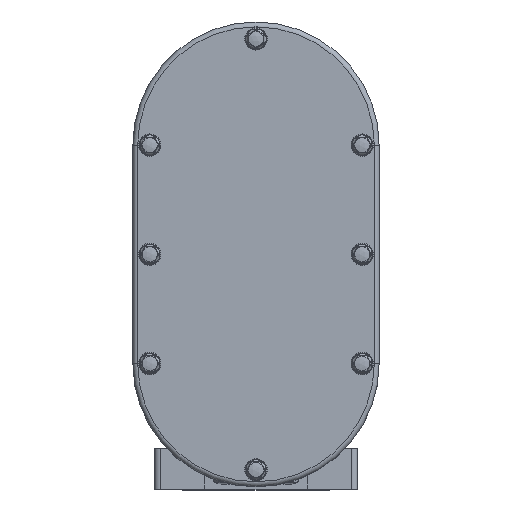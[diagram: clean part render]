
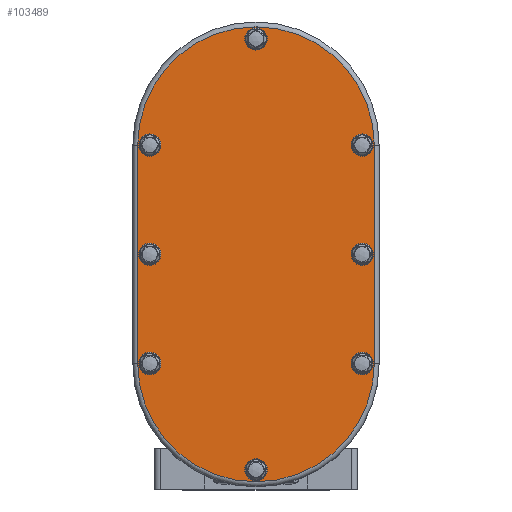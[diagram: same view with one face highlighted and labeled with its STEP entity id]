
A CAD part, top view. The second image highlights one B-rep face of the part: STEP entity #103489.
In plain terms, the highlighted planar face has unit normal (0, 0, 1).
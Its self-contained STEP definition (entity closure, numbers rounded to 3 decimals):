
#447 = DIRECTION ( 'NONE',  ( 0., -1., 0. ) ) ;
#781 = CARTESIAN_POINT ( 'NONE',  ( 2.377, 4.388, 3.975 ) ) ;
#1753 = CARTESIAN_POINT ( 'NONE',  ( 0., -2.135, 3.975 ) ) ;
#1860 = EDGE_CURVE ( 'NONE', #42125, #41587, #118177, .T. ) ;
#2296 = ORIENTED_EDGE ( 'NONE', *, *, #91720, .T. ) ;
#2774 = DIRECTION ( 'NONE',  ( 0., 0., 1. ) ) ;
#3060 = AXIS2_PLACEMENT_3D ( 'NONE', #72686, #109612, #81325 ) ;
#3168 = CIRCLE ( 'NONE', #72005, 0.222 ) ;
#4255 = DIRECTION ( 'NONE',  ( -1., 0., 0. ) ) ;
#8226 = DIRECTION ( 'NONE',  ( 0., 0., 1. ) ) ;
#9415 = DIRECTION ( 'NONE',  ( 0., 0., 1. ) ) ;
#10109 = EDGE_CURVE ( 'NONE', #96002, #58359, #84744, .T. ) ;
#10943 = ORIENTED_EDGE ( 'NONE', *, *, #37562, .T. ) ;
#13322 = VERTEX_POINT ( 'NONE', #116736 ) ;
#13512 = CARTESIAN_POINT ( 'NONE',  ( 2.377, 0., 3.975 ) ) ;
#14351 = EDGE_CURVE ( 'NONE', #94409, #94409, #109469, .T. ) ;
#15089 = CARTESIAN_POINT ( 'NONE',  ( -2.135, 0., 3.975 ) ) ;
#18092 = DIRECTION ( 'NONE',  ( 1., 0., 0. ) ) ;
#18609 = VERTEX_POINT ( 'NONE', #76369 ) ;
#18934 = ORIENTED_EDGE ( 'NONE', *, *, #99028, .F. ) ;
#20174 = VECTOR ( 'NONE', #447, 39.37 ) ;
#22964 = EDGE_CURVE ( 'NONE', #54245, #54245, #45425, .T. ) ;
#24197 = ORIENTED_EDGE ( 'NONE', *, *, #108958, .F. ) ;
#25787 = EDGE_LOOP ( 'NONE', ( #35719 ) ) ;
#26766 = EDGE_LOOP ( 'NONE', ( #10943, #63566, #2296, #56876 ) ) ;
#27304 = DIRECTION ( 'NONE',  ( -1., 0., 0. ) ) ;
#28633 = CIRCLE ( 'NONE', #3060, 0.222 ) ;
#29193 = ORIENTED_EDGE ( 'NONE', *, *, #22964, .F. ) ;
#29276 = CARTESIAN_POINT ( 'NONE',  ( 0., 4.388, 3.975 ) ) ;
#29877 = FACE_BOUND ( 'NONE', #64326, .T. ) ;
#30056 = DIRECTION ( 'NONE',  ( -1., 0., 0. ) ) ;
#32904 = CARTESIAN_POINT ( 'NONE',  ( -2.377, 4.388, 3.975 ) ) ;
#34121 = DIRECTION ( 'NONE',  ( -1., 0., 0. ) ) ;
#34473 = EDGE_LOOP ( 'NONE', ( #29193 ) ) ;
#35719 = ORIENTED_EDGE ( 'NONE', *, *, #65471, .F. ) ;
#36554 = CARTESIAN_POINT ( 'NONE',  ( 2.135, 0., 3.975 ) ) ;
#37096 = VERTEX_POINT ( 'NONE', #104147 ) ;
#37239 = VERTEX_POINT ( 'NONE', #112316 ) ;
#37316 = FACE_BOUND ( 'NONE', #97209, .T. ) ;
#37562 = EDGE_CURVE ( 'NONE', #41587, #96002, #95743, .T. ) ;
#37924 = FACE_BOUND ( 'NONE', #34473, .T. ) ;
#39302 = DIRECTION ( 'NONE',  ( 0., 0., 1. ) ) ;
#39748 = CARTESIAN_POINT ( 'NONE',  ( 1.913, 0., 3.975 ) ) ;
#41587 = VERTEX_POINT ( 'NONE', #781 ) ;
#42076 = DIRECTION ( 'NONE',  ( 0., 0., 1. ) ) ;
#42125 = VERTEX_POINT ( 'NONE', #13512 ) ;
#43383 = DIRECTION ( 'NONE',  ( 0., 0., 1. ) ) ;
#44544 = CIRCLE ( 'NONE', #91671, 0.222 ) ;
#45425 = CIRCLE ( 'NONE', #114151, 0.222 ) ;
#48085 = EDGE_CURVE ( 'NONE', #13322, #13322, #62501, .T. ) ;
#48190 = VERTEX_POINT ( 'NONE', #113382 ) ;
#48340 = CARTESIAN_POINT ( 'NONE',  ( 0., 4.388, 3.975 ) ) ;
#49455 = CIRCLE ( 'NONE', #53434, 0.222 ) ;
#52537 = DIRECTION ( 'NONE',  ( -1., 0., 0. ) ) ;
#53434 = AXIS2_PLACEMENT_3D ( 'NONE', #15089, #77653, #94900 ) ;
#54245 = VERTEX_POINT ( 'NONE', #73279 ) ;
#54684 = EDGE_LOOP ( 'NONE', ( #114385 ) ) ;
#55832 = FACE_BOUND ( 'NONE', #96332, .T. ) ;
#56413 = AXIS2_PLACEMENT_3D ( 'NONE', #1753, #39302, #30056 ) ;
#56876 = ORIENTED_EDGE ( 'NONE', *, *, #1860, .T. ) ;
#57015 = FACE_OUTER_BOUND ( 'NONE', #26766, .T. ) ;
#58211 = FACE_BOUND ( 'NONE', #91803, .T. ) ;
#58359 = VERTEX_POINT ( 'NONE', #110714 ) ;
#59185 = ORIENTED_EDGE ( 'NONE', *, *, #14351, .F. ) ;
#59966 = DIRECTION ( 'NONE',  ( 0., 0., 1. ) ) ;
#61264 = ORIENTED_EDGE ( 'NONE', *, *, #85625, .F. ) ;
#62501 = CIRCLE ( 'NONE', #105671, 0.222 ) ;
#63566 = ORIENTED_EDGE ( 'NONE', *, *, #10109, .T. ) ;
#64326 = EDGE_LOOP ( 'NONE', ( #24197 ) ) ;
#64412 = DIRECTION ( 'NONE',  ( 0., 1., 0. ) ) ;
#65471 = EDGE_CURVE ( 'NONE', #37239, #37239, #49455, .T. ) ;
#66231 = FACE_BOUND ( 'NONE', #54684, .T. ) ;
#67446 = DIRECTION ( 'NONE',  ( -1., 0., 0. ) ) ;
#69248 = AXIS2_PLACEMENT_3D ( 'NONE', #29276, #121059, #67446 ) ;
#71369 = CARTESIAN_POINT ( 'NONE',  ( 2.377, 4.388, 3.975 ) ) ;
#72005 = AXIS2_PLACEMENT_3D ( 'NONE', #102974, #8226, #18092 ) ;
#72686 = CARTESIAN_POINT ( 'NONE',  ( 0., 6.523, 3.975 ) ) ;
#73279 = CARTESIAN_POINT ( 'NONE',  ( 1.913, 2.194, 3.975 ) ) ;
#76369 = CARTESIAN_POINT ( 'NONE',  ( 0., 6.745, 3.975 ) ) ;
#77653 = DIRECTION ( 'NONE',  ( 0., 0., 1. ) ) ;
#79961 = CARTESIAN_POINT ( 'NONE',  ( -2.135, 4.388, 3.975 ) ) ;
#81325 = DIRECTION ( 'NONE',  ( 0., 1., 0. ) ) ;
#84744 = LINE ( 'NONE', #113668, #20174 ) ;
#85283 = DIRECTION ( 'NONE',  ( -1., 0., 0. ) ) ;
#85621 = EDGE_CURVE ( 'NONE', #48190, #48190, #3168, .T. ) ;
#85625 = EDGE_CURVE ( 'NONE', #37096, #37096, #44544, .T. ) ;
#86536 = AXIS2_PLACEMENT_3D ( 'NONE', #36554, #43383, #34121 ) ;
#87090 = CARTESIAN_POINT ( 'NONE',  ( 0., 0., 3.975 ) ) ;
#91671 = AXIS2_PLACEMENT_3D ( 'NONE', #112814, #9415, #27304 ) ;
#91720 = EDGE_CURVE ( 'NONE', #58359, #42125, #110121, .T. ) ;
#91803 = EDGE_LOOP ( 'NONE', ( #61264 ) ) ;
#94409 = VERTEX_POINT ( 'NONE', #104878 ) ;
#94509 = PLANE ( 'NONE',  #69248 ) ;
#94900 = DIRECTION ( 'NONE',  ( 1., 0., 0. ) ) ;
#95743 = CIRCLE ( 'NONE', #111525, 2.377 ) ;
#96002 = VERTEX_POINT ( 'NONE', #32904 ) ;
#96332 = EDGE_LOOP ( 'NONE', ( #59185 ) ) ;
#96333 = VERTEX_POINT ( 'NONE', #39748 ) ;
#97209 = EDGE_LOOP ( 'NONE', ( #18934 ) ) ;
#98310 = AXIS2_PLACEMENT_3D ( 'NONE', #87090, #2774, #85283 ) ;
#99028 = EDGE_CURVE ( 'NONE', #96333, #96333, #104217, .T. ) ;
#102974 = CARTESIAN_POINT ( 'NONE',  ( -2.135, 2.194, 3.975 ) ) ;
#103489 = ADVANCED_FACE ( 'NONE', ( #37924, #112397, #29877, #66231, #37316, #103759, #55832, #58211, #57015 ), #94509, .F. ) ;
#103759 = FACE_BOUND ( 'NONE', #25787, .T. ) ;
#104147 = CARTESIAN_POINT ( 'NONE',  ( 1.913, 4.388, 3.975 ) ) ;
#104217 = CIRCLE ( 'NONE', #86536, 0.222 ) ;
#104878 = CARTESIAN_POINT ( 'NONE',  ( -0.222, -2.135, 3.975 ) ) ;
#105671 = AXIS2_PLACEMENT_3D ( 'NONE', #79961, #115050, #4255 ) ;
#106653 = CARTESIAN_POINT ( 'NONE',  ( 2.135, 2.194, 3.975 ) ) ;
#106778 = ORIENTED_EDGE ( 'NONE', *, *, #48085, .F. ) ;
#108958 = EDGE_CURVE ( 'NONE', #18609, #18609, #28633, .T. ) ;
#109469 = CIRCLE ( 'NONE', #56413, 0.222 ) ;
#109612 = DIRECTION ( 'NONE',  ( 0., 0., 1. ) ) ;
#110121 = CIRCLE ( 'NONE', #98310, 2.377 ) ;
#110492 = EDGE_LOOP ( 'NONE', ( #106778 ) ) ;
#110714 = CARTESIAN_POINT ( 'NONE',  ( -2.377, 0., 3.975 ) ) ;
#111525 = AXIS2_PLACEMENT_3D ( 'NONE', #48340, #59966, #114757 ) ;
#112316 = CARTESIAN_POINT ( 'NONE',  ( -1.913, 0., 3.975 ) ) ;
#112397 = FACE_BOUND ( 'NONE', #110492, .T. ) ;
#112814 = CARTESIAN_POINT ( 'NONE',  ( 2.135, 4.388, 3.975 ) ) ;
#113382 = CARTESIAN_POINT ( 'NONE',  ( -1.913, 2.194, 3.975 ) ) ;
#113668 = CARTESIAN_POINT ( 'NONE',  ( -2.377, 4.388, 3.975 ) ) ;
#114151 = AXIS2_PLACEMENT_3D ( 'NONE', #106653, #42076, #52537 ) ;
#114385 = ORIENTED_EDGE ( 'NONE', *, *, #85621, .F. ) ;
#114757 = DIRECTION ( 'NONE',  ( -1., 0., 0. ) ) ;
#115050 = DIRECTION ( 'NONE',  ( 0., 0., 1. ) ) ;
#116736 = CARTESIAN_POINT ( 'NONE',  ( -2.357, 4.388, 3.975 ) ) ;
#118177 = LINE ( 'NONE', #71369, #120798 ) ;
#120798 = VECTOR ( 'NONE', #64412, 39.37 ) ;
#121059 = DIRECTION ( 'NONE',  ( 0., 0., -1. ) ) ;
